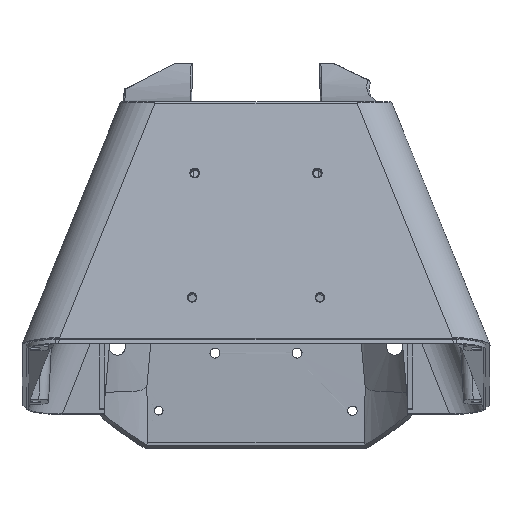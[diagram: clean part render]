
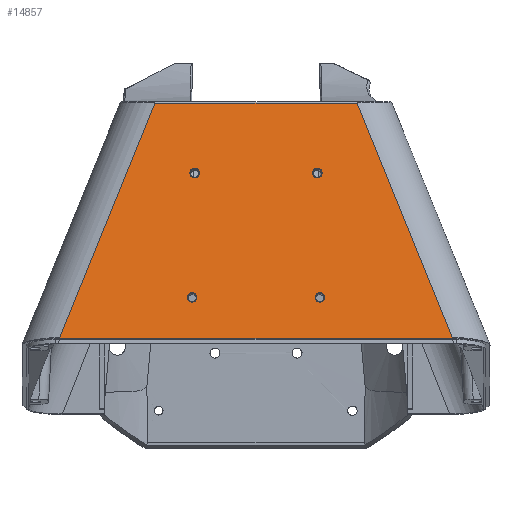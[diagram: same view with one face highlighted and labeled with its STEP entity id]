
A CAD part, top view. The second image highlights one B-rep face of the part: STEP entity #14857.
In plain terms, the highlighted planar face has unit normal (0, 0.174, 0.985).
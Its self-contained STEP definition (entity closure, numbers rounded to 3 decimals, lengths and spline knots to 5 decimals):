
#584=LINE('',#28078,#1541);
#1213=LINE('',#48758,#2170);
#1230=LINE('',#49344,#2187);
#1336=LINE('',#51358,#2293);
#1337=LINE('',#51454,#2294);
#1541=VECTOR('',#16807,1.);
#2170=VECTOR('',#18974,1.);
#2187=VECTOR('',#19043,1.);
#2293=VECTOR('',#19451,1.);
#2294=VECTOR('',#19456,1.);
#2587=PLANE('',#16088);
#2614=CIRCLE('',#14922,0.00175);
#2617=CIRCLE('',#14927,0.00175);
#2620=CIRCLE('',#14932,0.00175);
#2623=CIRCLE('',#14937,0.00175);
#7213=ORIENTED_EDGE('',*,*,#7488,.F.);
#7214=ORIENTED_EDGE('',*,*,#7491,.F.);
#7215=ORIENTED_EDGE('',*,*,#7494,.F.);
#7216=ORIENTED_EDGE('',*,*,#7497,.F.);
#7217=ORIENTED_EDGE('',*,*,#9611,.F.);
#7218=ORIENTED_EDGE('',*,*,#7915,.T.);
#7219=ORIENTED_EDGE('',*,*,#9616,.F.);
#7220=ORIENTED_EDGE('',*,*,#9330,.T.);
#7221=ORIENTED_EDGE('',*,*,#9374,.F.);
#7222=ORIENTED_EDGE('',*,*,#9615,.T.);
#7488=EDGE_CURVE('',#9678,#9678,#2614,.T.);
#7491=EDGE_CURVE('',#9681,#9681,#2617,.T.);
#7494=EDGE_CURVE('',#9684,#9684,#2620,.T.);
#7497=EDGE_CURVE('',#9687,#9687,#2623,.T.);
#7915=EDGE_CURVE('',#9956,#9957,#584,.T.);
#9330=EDGE_CURVE('',#10874,#10873,#1213,.T.);
#9374=EDGE_CURVE('',#10455,#10873,#1230,.T.);
#9611=EDGE_CURVE('',#9956,#11036,#1336,.T.);
#9615=EDGE_CURVE('',#10455,#11036,#11699,.T.);
#9616=EDGE_CURVE('',#10874,#9957,#1337,.T.);
#9678=VERTEX_POINT('',#19656);
#9681=VERTEX_POINT('',#19664);
#9684=VERTEX_POINT('',#19672);
#9687=VERTEX_POINT('',#19680);
#9956=VERTEX_POINT('',#28079);
#9957=VERTEX_POINT('',#28080);
#10455=VERTEX_POINT('',#37952);
#10873=VERTEX_POINT('',#48757);
#10874=VERTEX_POINT('',#48759);
#11036=VERTEX_POINT('',#51359);
#11699=B_SPLINE_CURVE_WITH_KNOTS('',3,(#51449,#51450,#51451,#51452),
 .UNSPECIFIED.,.F.,.F.,(4,4),(0.,1.),.UNSPECIFIED.);
#12669=EDGE_LOOP('',(#7213));
#12670=EDGE_LOOP('',(#7214));
#12671=EDGE_LOOP('',(#7215));
#12672=EDGE_LOOP('',(#7216));
#12673=EDGE_LOOP('',(#7217,#7218,#7219,#7220,#7221,#7222));
#13672=FACE_BOUND('',#12669,.T.);
#13673=FACE_BOUND('',#12670,.T.);
#13674=FACE_BOUND('',#12671,.T.);
#13675=FACE_BOUND('',#12672,.T.);
#13676=FACE_BOUND('',#12673,.T.);
#14857=ADVANCED_FACE('',(#13672,#13673,#13674,#13675,#13676),#2587,.T.);
#14922=AXIS2_PLACEMENT_3D('',#19655,#16207,#16208);
#14927=AXIS2_PLACEMENT_3D('',#19663,#16217,#16218);
#14932=AXIS2_PLACEMENT_3D('',#19671,#16227,#16228);
#14937=AXIS2_PLACEMENT_3D('',#19679,#16237,#16238);
#16088=AXIS2_PLACEMENT_3D('',#51453,#19454,#19455);
#16207=DIRECTION('',(0.,0.174,0.985));
#16208=DIRECTION('',(0.,-0.985,0.174));
#16217=DIRECTION('',(0.,0.174,0.985));
#16218=DIRECTION('',(0.,-0.985,0.174));
#16227=DIRECTION('',(0.,0.174,0.985));
#16228=DIRECTION('',(0.,0.985,-0.174));
#16237=DIRECTION('',(0.,0.174,0.985));
#16238=DIRECTION('',(0.,0.985,-0.174));
#16807=DIRECTION('',(0.,-0.985,0.174));
#18974=DIRECTION('',(0.,0.985,-0.174));
#19043=DIRECTION('',(0.371,-0.914,0.161));
#19451=DIRECTION('',(0.371,0.914,-0.161));
#19454=DIRECTION('',(0.,0.174,0.985));
#19455=DIRECTION('',(0.,0.985,-0.174));
#19456=DIRECTION('',(-1.,0.,0.));
#19655=CARTESIAN_POINT('',(-0.02291,-0.01542,0.59522));
#19656=CARTESIAN_POINT('',(-0.02291,-0.01714,0.59553));
#19663=CARTESIAN_POINT('',(-0.022,0.02956,0.58729));
#19664=CARTESIAN_POINT('',(-0.022,0.02784,0.5876));
#19671=CARTESIAN_POINT('',(0.02324,-0.01542,0.59522));
#19672=CARTESIAN_POINT('',(0.02324,-0.01369,0.59492));
#19679=CARTESIAN_POINT('',(0.02233,0.02956,0.58729));
#19680=CARTESIAN_POINT('',(0.02233,0.03129,0.58699));
#28078=CARTESIAN_POINT('',(-0.07081,-0.0302,0.59783));
#28079=CARTESIAN_POINT('',(-0.07081,-0.02983,0.59777));
#28080=CARTESIAN_POINT('',(-0.07081,-0.0302,0.59783));
#37952=CARTESIAN_POINT('',(0.03674,0.05487,0.58283));
#48757=CARTESIAN_POINT('',(0.07114,-0.02983,0.59777));
#48758=CARTESIAN_POINT('',(0.07114,-0.02984,0.59777));
#48759=CARTESIAN_POINT('',(0.07114,-0.0302,0.59783));
#49344=CARTESIAN_POINT('',(0.03674,0.05487,0.58283));
#51358=CARTESIAN_POINT('',(-0.07081,-0.02984,0.59777));
#51359=CARTESIAN_POINT('',(-0.0364,0.05487,0.58283));
#51449=CARTESIAN_POINT('',(0.03674,0.05487,0.58283));
#51450=CARTESIAN_POINT('',(0.01236,0.05487,0.58283));
#51451=CARTESIAN_POINT('',(-0.01202,0.05487,0.58283));
#51452=CARTESIAN_POINT('',(-0.0364,0.05487,0.58283));
#51453=CARTESIAN_POINT('',(0.00017,-0.04291,0.60007));
#51454=CARTESIAN_POINT('',(0.07114,-0.0302,0.59783));
